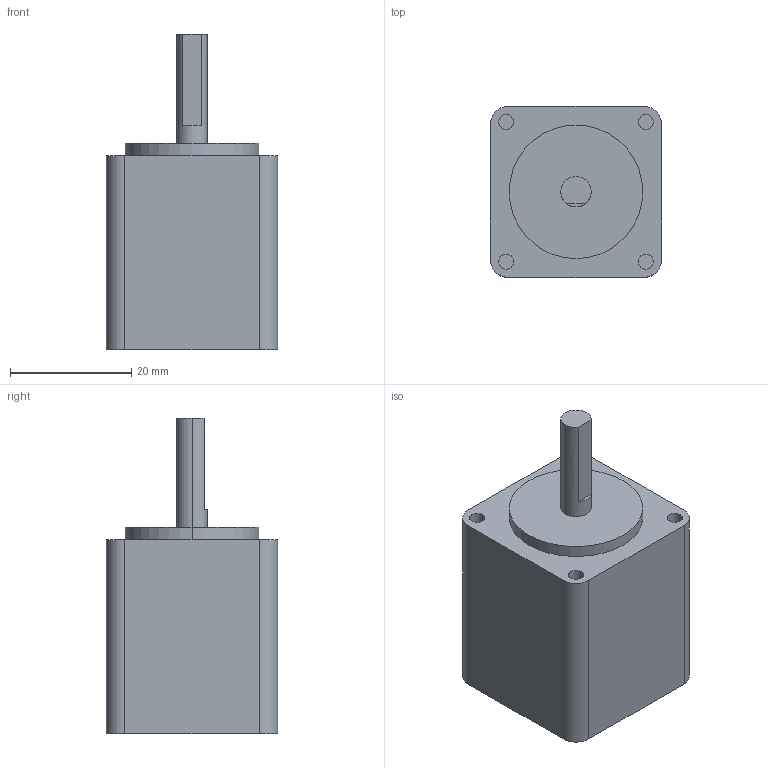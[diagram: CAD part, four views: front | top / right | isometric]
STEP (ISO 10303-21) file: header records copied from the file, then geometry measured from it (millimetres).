
FILE_DESCRIPTION (( 'STEP AP214' ), '1' );
FILE_NAME ('28CM006.STEP', '2018-06-05T00:43:45', ( 'Microsoft' ), ( 'China' ), 'SwSTEP 2.0', 'SolidWorks 2011', '' );
FILE_SCHEMA (( 'AUTOMOTIVE_DESIGN' ));
Length unit declared in the file: millimetre
Products named in the file (1): 28CM006
Bounding box: 28.2 x 28.2 x 52 mm (x, y, z)
Volume: 26249.7 mm3; surface area: 5516.1 mm2
Topology: 1 solids, 1 shells, 30 faces, 66 edges, 44 vertices
Faces by surface type: cylinder 16, plane 14
Entity records: 878 total; most frequent: DIRECTION 162, CARTESIAN_POINT 141, ORIENTED_EDGE 132, EDGE_CURVE 66, AXIS2_PLACEMENT_3D 65, VERTEX_POINT 44, EDGE_LOOP 36, CIRCLE 34
